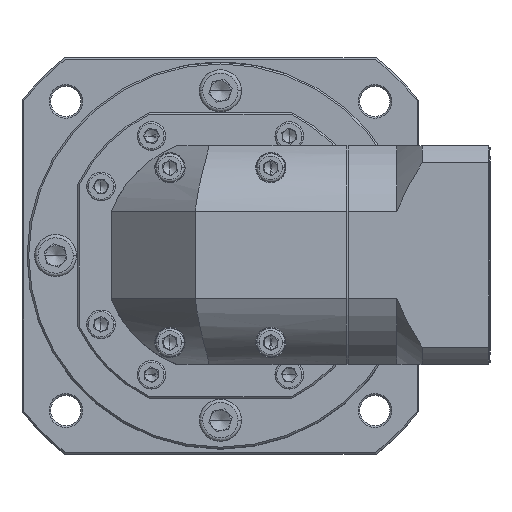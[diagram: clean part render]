
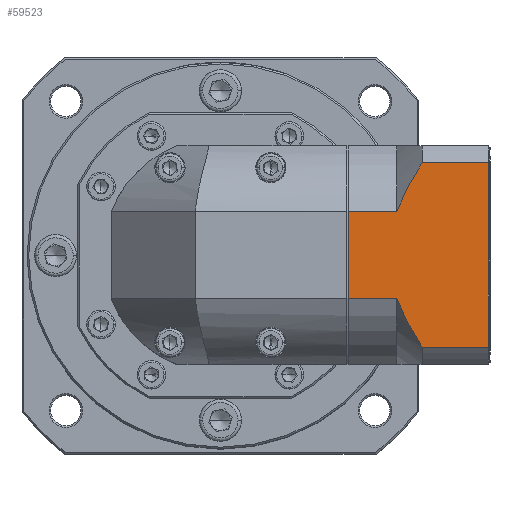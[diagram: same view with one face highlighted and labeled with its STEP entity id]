
A CAD part, top view. The second image highlights one B-rep face of the part: STEP entity #59523.
In plain terms, the highlighted planar face has unit normal (0, 0, 1).
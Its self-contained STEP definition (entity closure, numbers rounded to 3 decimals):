
#2005 = DIRECTION ( 'NONE',  ( 1., 0., 0. ) ) ;
#7184 = CARTESIAN_POINT ( 'NONE',  ( 98.131, 127.452, 95.789 ) ) ;
#7612 = ORIENTED_EDGE ( 'NONE', *, *, #31404, .T. ) ;
#9035 = CARTESIAN_POINT ( 'NONE',  ( 93.48, 137.265, 95.789 ) ) ;
#10523 = ORIENTED_EDGE ( 'NONE', *, *, #120866, .T. ) ;
#10795 = ORIENTED_EDGE ( 'NONE', *, *, #43781, .F. ) ;
#15424 = DIRECTION ( 'NONE',  ( 1., 0., 0. ) ) ;
#15445 = ORIENTED_EDGE ( 'NONE', *, *, #73549, .T. ) ;
#17073 = CARTESIAN_POINT ( 'NONE',  ( 78.98, 137.265, 95.789 ) ) ;
#17089 = CARTESIAN_POINT ( 'NONE',  ( 100.98, 122.87, 95.789 ) ) ;
#17324 = VERTEX_POINT ( 'NONE', #134958 ) ;
#17619 = B_SPLINE_CURVE_WITH_KNOTS ( 'NONE', 3,
 ( #23569, #22131, #88492, #131248, #66915, #33019, #97830, #108135 ),
 .UNSPECIFIED., .F., .F.,
 ( 4, 2, 2, 4 ),
 ( 0.058, 0.062, 0.066, 0.074 ),
 .UNSPECIFIED. ) ;
#19491 = LINE ( 'NONE', #48318, #137298 ) ;
#22131 = CARTESIAN_POINT ( 'NONE',  ( 100.247, 176.504, 95.789 ) ) ;
#22641 = VERTEX_POINT ( 'NONE', #92948 ) ;
#23569 = CARTESIAN_POINT ( 'NONE',  ( 100.98, 177.642, 95.789 ) ) ;
#25560 = ORIENTED_EDGE ( 'NONE', *, *, #60542, .F. ) ;
#26720 = CARTESIAN_POINT ( 'NONE',  ( 121.18, 182.756, 95.789 ) ) ;
#31404 = EDGE_CURVE ( 'NONE', #17324, #133212, #19491, .T. ) ;
#33019 = CARTESIAN_POINT ( 'NONE',  ( 95.567, 168.236, 95.789 ) ) ;
#33316 = CARTESIAN_POINT ( 'NONE',  ( 93.48, 122.87, 95.789 ) ) ;
#36214 = EDGE_CURVE ( 'NONE', #22641, #133212, #136011, .T. ) ;
#38741 = CARTESIAN_POINT ( 'NONE',  ( 93.719, 136.623, 95.789 ) ) ;
#38813 = ORIENTED_EDGE ( 'NONE', *, *, #131311, .F. ) ;
#40137 = CARTESIAN_POINT ( 'NONE',  ( 96.226, 131.033, 95.789 ) ) ;
#40586 = DIRECTION ( 'NONE',  ( -1., 0., 0. ) ) ;
#41122 = CARTESIAN_POINT ( 'NONE',  ( 100.98, 122.87, 95.789 ) ) ;
#43781 = EDGE_CURVE ( 'NONE', #17324, #66898, #68738, .T. ) ;
#47952 = PLANE ( 'NONE',  #68520 ) ;
#48318 = CARTESIAN_POINT ( 'NONE',  ( 78.98, 182.756, 95.789 ) ) ;
#48379 = VERTEX_POINT ( 'NONE', #41122 ) ;
#48644 = VERTEX_POINT ( 'NONE', #57986 ) ;
#49064 = VERTEX_POINT ( 'NONE', #75261 ) ;
#50103 = CARTESIAN_POINT ( 'NONE',  ( 93.48, 137.265, 95.789 ) ) ;
#53338 = CARTESIAN_POINT ( 'NONE',  ( 120.68, 122.87, 95.789 ) ) ;
#57913 = ORIENTED_EDGE ( 'NONE', *, *, #137968, .T. ) ;
#57986 = CARTESIAN_POINT ( 'NONE',  ( 120.68, 177.642, 95.789 ) ) ;
#59523 = ADVANCED_FACE ( 'NONE', ( #65604 ), #47952, .F. ) ;
#60542 = EDGE_CURVE ( 'NONE', #49064, #48644, #73434, .T. ) ;
#60876 = CARTESIAN_POINT ( 'NONE',  ( 94.771, 134.099, 95.789 ) ) ;
#64614 = ORIENTED_EDGE ( 'NONE', *, *, #36214, .F. ) ;
#65604 = FACE_OUTER_BOUND ( 'NONE', #94053, .T. ) ;
#66898 = VERTEX_POINT ( 'NONE', #104382 ) ;
#66915 = CARTESIAN_POINT ( 'NONE',  ( 97.477, 171.832, 95.789 ) ) ;
#68120 = LINE ( 'NONE', #33316, #128645 ) ;
#68520 = AXIS2_PLACEMENT_3D ( 'NONE', #26720, #132996, #15424 ) ;
#68738 = LINE ( 'NONE', #110480, #80455 ) ;
#70866 = DIRECTION ( 'NONE',  ( 0., -1., 0. ) ) ;
#72511 = LINE ( 'NONE', #101282, #89330 ) ;
#73434 = LINE ( 'NONE', #130906, #98555 ) ;
#73549 = EDGE_CURVE ( 'NONE', #49064, #66898, #17619, .T. ) ;
#74145 = B_SPLINE_CURVE_WITH_KNOTS ( 'NONE', 3,
 ( #50103, #38741, #81604, #115320, #60876, #136094, #40137, #7184, #126184, #17089 ),
 .UNSPECIFIED., .F., .F.,
 ( 4, 2, 2, 2, 4 ),
 ( 0.101, 0.103, 0.105, 0.109, 0.117 ),
 .UNSPECIFIED. ) ;
#75261 = CARTESIAN_POINT ( 'NONE',  ( 100.98, 177.642, 95.789 ) ) ;
#77981 = DIRECTION ( 'NONE',  ( -1., 0., 0. ) ) ;
#80455 = VECTOR ( 'NONE', #88092, 1000. ) ;
#81604 = CARTESIAN_POINT ( 'NONE',  ( 93.971, 135.984, 95.789 ) ) ;
#88092 = DIRECTION ( 'NONE',  ( 1., 0., 0. ) ) ;
#88492 = CARTESIAN_POINT ( 'NONE',  ( 99.532, 175.353, 95.789 ) ) ;
#89330 = VECTOR ( 'NONE', #133777, 1000. ) ;
#92948 = CARTESIAN_POINT ( 'NONE',  ( 93.48, 137.265, 95.789 ) ) ;
#93076 = VECTOR ( 'NONE', #40586, 1000. ) ;
#94053 = EDGE_LOOP ( 'NONE', ( #38813, #57913, #25560, #15445, #10795, #7612, #64614, #10523 ) ) ;
#97830 = CARTESIAN_POINT ( 'NONE',  ( 94.422, 165.784, 95.789 ) ) ;
#98555 = VECTOR ( 'NONE', #2005, 1000. ) ;
#101282 = CARTESIAN_POINT ( 'NONE',  ( 120.68, 182.756, 95.789 ) ) ;
#104382 = CARTESIAN_POINT ( 'NONE',  ( 93.48, 163.246, 95.789 ) ) ;
#108135 = CARTESIAN_POINT ( 'NONE',  ( 93.48, 163.246, 95.789 ) ) ;
#110480 = CARTESIAN_POINT ( 'NONE',  ( 93.48, 163.246, 95.789 ) ) ;
#115320 = CARTESIAN_POINT ( 'NONE',  ( 94.497, 134.723, 95.789 ) ) ;
#120866 = EDGE_CURVE ( 'NONE', #22641, #48379, #74145, .T. ) ;
#126184 = CARTESIAN_POINT ( 'NONE',  ( 99.519, 125.138, 95.789 ) ) ;
#128645 = VECTOR ( 'NONE', #77981, 1000. ) ;
#130906 = CARTESIAN_POINT ( 'NONE',  ( 93.48, 177.642, 95.789 ) ) ;
#131248 = CARTESIAN_POINT ( 'NONE',  ( 98.147, 173.018, 95.789 ) ) ;
#131311 = EDGE_CURVE ( 'NONE', #136497, #48379, #68120, .T. ) ;
#132996 = DIRECTION ( 'NONE',  ( 0., 0., -1. ) ) ;
#133212 = VERTEX_POINT ( 'NONE', #17073 ) ;
#133777 = DIRECTION ( 'NONE',  ( 0., 1., 0. ) ) ;
#134958 = CARTESIAN_POINT ( 'NONE',  ( 78.98, 163.246, 95.789 ) ) ;
#136011 = LINE ( 'NONE', #9035, #93076 ) ;
#136094 = CARTESIAN_POINT ( 'NONE',  ( 95.621, 132.245, 95.789 ) ) ;
#136497 = VERTEX_POINT ( 'NONE', #53338 ) ;
#137298 = VECTOR ( 'NONE', #70866, 1000. ) ;
#137968 = EDGE_CURVE ( 'NONE', #136497, #48644, #72511, .T. ) ;
